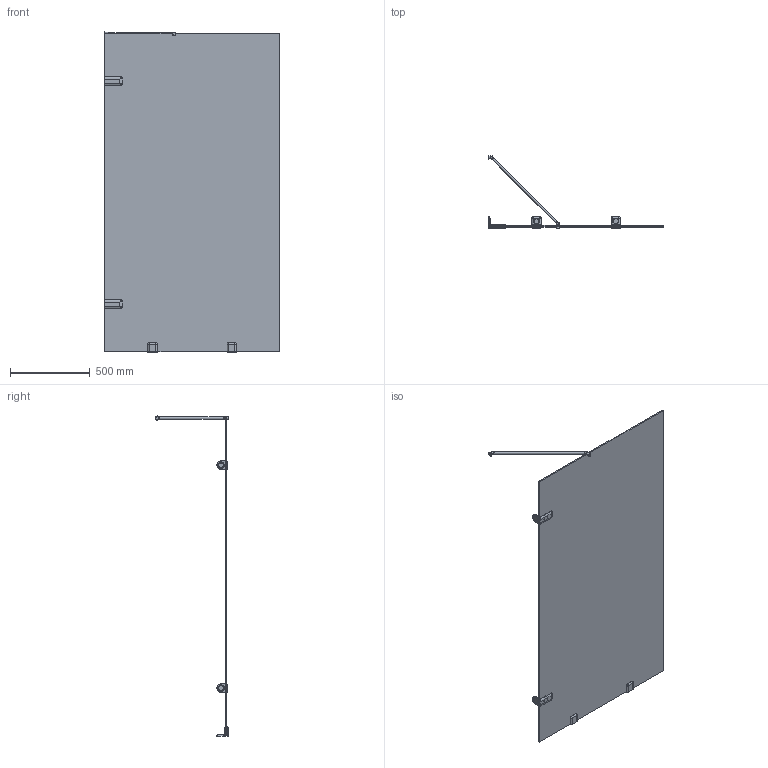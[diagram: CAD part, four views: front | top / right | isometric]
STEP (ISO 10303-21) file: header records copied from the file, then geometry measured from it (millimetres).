
FILE_DESCRIPTION(/* description */ ('Стенка передняя'),/* implementation_level */ '2;1');
FILE_NAME(/* name */ 'E:\Работа\Сергей\Душевые кабинки\! Работа\!!!!\TREND DOOR GK-861NB\TREND DOOR GK-861NB левая модель\TREND DOOR GK-861NB ЛЕВАЯ-3D.stp',/* time_stamp */ '2018-01-05T18:28:38+03:00',/* author */ ('PC'),/* organization */ (''),/* preprocessor_version */ 'ST-DEVELOPER v15.2',/* originating_system */ 'Autodesk Inventor 2014',/* authorisation */ '');
FILE_SCHEMA (('AUTOMOTIVE_DESIGN { 1 0 10303 214 3 1 1 }'));
Length unit declared in the file: millimetre
Products named in the file (5): Стекло.02 (2-4) TR; CH27-2 (3D); STB-60 (3D левый); CH27-4 (3D); TREND DOOR GK-861NB ЛЕВАЯ-3D
Bounding box: 1100 x 461.76 x 2009.49 mm (x, y, z)
Volume: 18011345.8 mm3; surface area: 4586514.1 mm2
Topology: 10 solids, 16 shells, 256 faces, 569 edges, 357 vertices
Faces by surface type: plane 108, cylinder 76, bspline 22, torus 19, sphere 17, cone 14
Full cylindrical faces by diameter (mm): 4.917 x4, 13 x6, 15 x1, 16 x6, 20 x2, 26 x1, 28 x2, 28.5 x2, 40 x2
Entity records: 5218 total; most frequent: CARTESIAN_POINT 1655, DIRECTION 699, ORIENTED_EDGE 606, EDGE_CURVE 303, AXIS2_PLACEMENT_3D 280, VERTEX_POINT 212, EDGE_LOOP 211, ADVANCED_FACE 153
